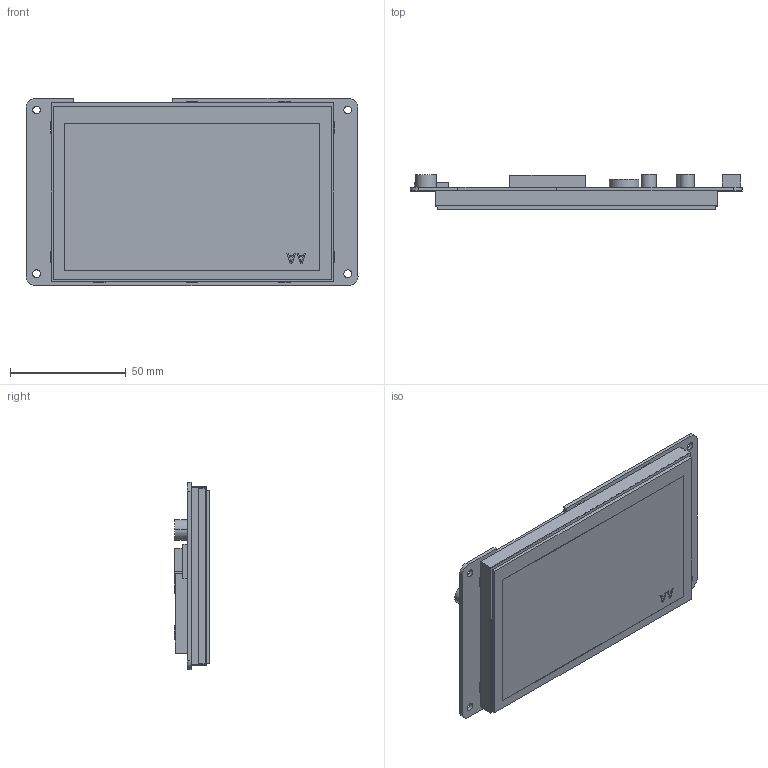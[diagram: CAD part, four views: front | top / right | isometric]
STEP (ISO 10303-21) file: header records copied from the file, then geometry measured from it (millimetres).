
FILE_DESCRIPTION((''),'2;1');
FILE_NAME('DMG80480T050-02WTR_ASM','2021-10-31T',('Administrator'),(''),'PRO/ENGINEER BY PARAMETRIC TECHNOLOGY CORPORATION, 2014320','PRO/ENGINEER BY PARAMETRIC TECHNOLOGY CORPORATION, 2014320','');
FILE_SCHEMA(('CONFIG_CONTROL_DESIGN'));
Length unit declared in the file: millimetre
Products named in the file (5): TK050002; B00362; RTP; PCB; DMG80480T050-02WTR_ASM
Assembly tree (4 placements, depth 2):
  DMG80480T050-02WTR_ASM
    TK050002
    B00362
    RTP
    PCB
Bounding box: 143.38 x 15.35 x 80.77 mm (x, y, z)
Volume: 67451.7 mm3; surface area: 72384.3 mm2
Topology: 4 solids, 4 shells, 188 faces, 480 edges, 320 vertices
Faces by surface type: plane 162, cylinder 26
Entity records: 5805 total; most frequent: CARTESIAN_POINT 997, ORIENTED_EDGE 960, DIRECTION 926, EDGE_CURVE 480, VECTOR 428, LINE 428, VERTEX_POINT 320, AXIS2_PLACEMENT_3D 249
